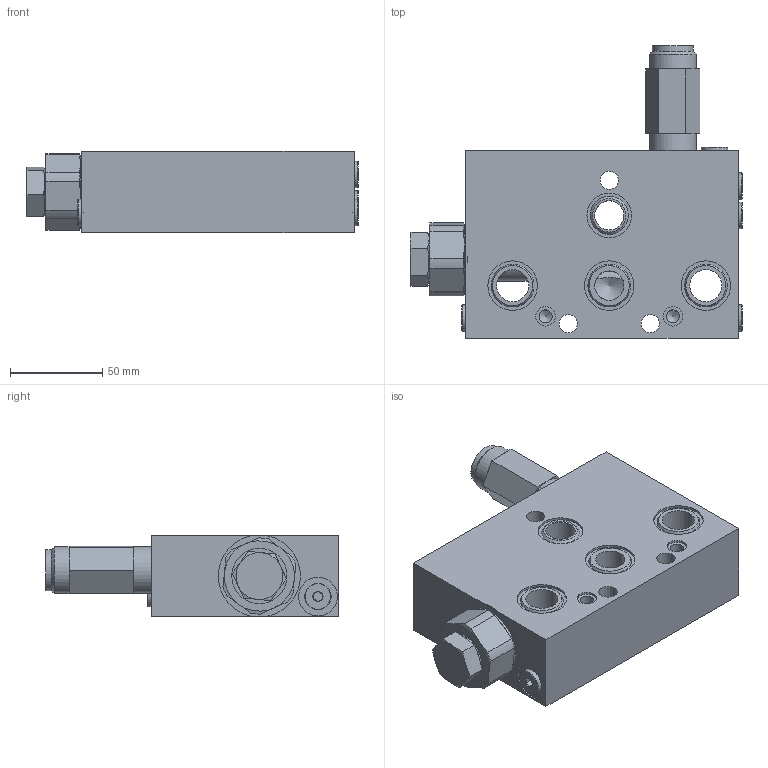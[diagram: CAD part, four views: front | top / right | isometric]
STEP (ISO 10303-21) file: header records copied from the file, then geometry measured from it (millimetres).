
FILE_DESCRIPTION((''),'2;1');
FILE_NAME('C:\Vault\Workspace\z_ShellModels\S20\20U2_Shell.stp','2012-03-20T08:01:47',('PetersW'),(''),'Autodesk Inventor 2012','Autodesk Inventor 2012','');
FILE_SCHEMA(('AUTOMOTIVE_DESIGN { 1 0 10303 214 1 1 1 1 }'));
Length unit declared in the file: inch
Products named in the file (1): Part2
Bounding box: 180.02 x 158.78 x 44.45 mm (x, y, z)
Volume: 677106.2 mm3; surface area: 78395.1 mm2
Topology: 1 solids, 11 shells, 229 faces, 489 edges, 313 vertices
Faces by surface type: plane 114, cylinder 62, cone 53
Full cylindrical faces by diameter (mm): 3.581 x1, 5.556 x5, 7.137 x2, 9.246 x5, 9.931 x3, 10.592 x2, 14.3 x5, 15.875 x2, 17.45 x2, 19.05 x1, 21.031 x5, 22.225 x1, 24.206 x1, 25.222 x1, 25.4 x2, 26.822 x3, 29.972 x1, 30.175 x1, 30.404 x1, 38.024 x1
Entity records: 5992 total; most frequent: CARTESIAN_POINT 1312, DIRECTION 932, ORIENTED_EDGE 768, AXIS2_PLACEMENT_3D 403, EDGE_CURVE 384, EDGE_LOOP 363, VERTEX_POINT 283, STYLED_ITEM 230
